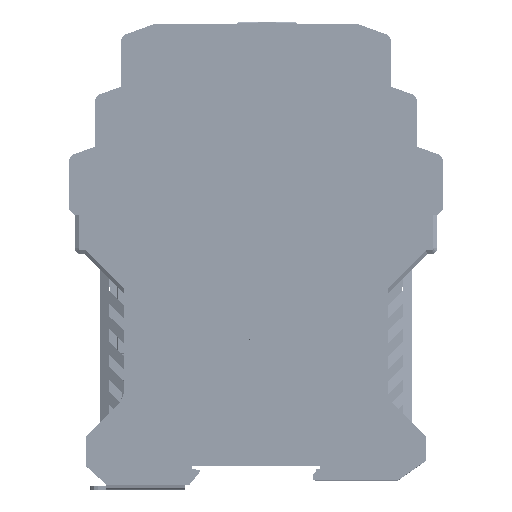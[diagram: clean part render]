
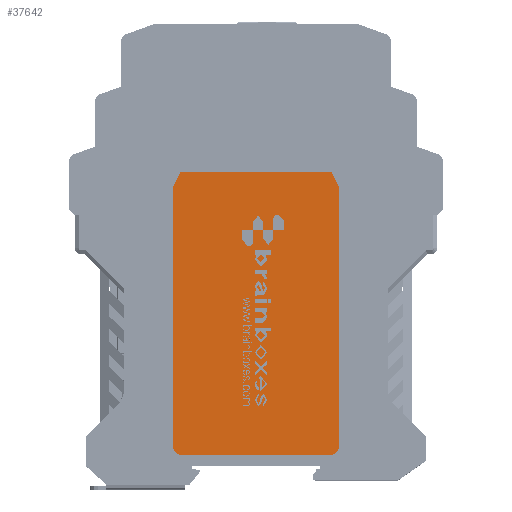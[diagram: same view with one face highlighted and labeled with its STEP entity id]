
A CAD part, top view. The second image highlights one B-rep face of the part: STEP entity #37642.
In plain terms, the highlighted planar face has unit normal (0, 0, 1).
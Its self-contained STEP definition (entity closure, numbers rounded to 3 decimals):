
#37642=ADVANCED_FACE('',(#75879),#75880,.T.);
#75879=FACE_OUTER_BOUND('',#120916,.T.);
#75880=PLANE('',#120917);
#120916=EDGE_LOOP('',(#231237,#231238,#231239,#231240,#231241,#231242,#231243,#231244));
#120917=AXIS2_PLACEMENT_3D('',#231245,#231246,#231247);
#231237=ORIENTED_EDGE('',*,*,#282296,.T.);
#231238=ORIENTED_EDGE('',*,*,#282298,.T.);
#231239=ORIENTED_EDGE('',*,*,#282299,.T.);
#231240=ORIENTED_EDGE('',*,*,#282289,.F.);
#231241=ORIENTED_EDGE('',*,*,#282300,.T.);
#231242=ORIENTED_EDGE('',*,*,#282285,.T.);
#231243=ORIENTED_EDGE('',*,*,#282301,.T.);
#231244=ORIENTED_EDGE('',*,*,#282293,.T.);
#231245=CARTESIAN_POINT('',(6.465,75.955,22.4));
#231246=DIRECTION('',(0.0,0.0,1.0));
#231247=DIRECTION('',(1.0,-0.0,0.0));
#282285=EDGE_CURVE('',#348510,#348512,#348514,.T.);
#282289=EDGE_CURVE('',#348518,#348516,#348520,.T.);
#282293=EDGE_CURVE('',#348522,#348524,#348526,.T.);
#282296=EDGE_CURVE('',#348524,#348528,#348530,.T.);
#282298=EDGE_CURVE('',#348528,#348532,#348533,.T.);
#282299=EDGE_CURVE('',#348532,#348516,#348534,.T.);
#282300=EDGE_CURVE('',#348518,#348510,#348535,.T.);
#282301=EDGE_CURVE('',#348512,#348522,#348536,.T.);
#348510=VERTEX_POINT('',#451042);
#348512=VERTEX_POINT('',#451045);
#348514=LINE('',#451048,#451049);
#348516=VERTEX_POINT('',#451051);
#348518=VERTEX_POINT('',#451054);
#348520=LINE('',#451057,#451058);
#348522=VERTEX_POINT('',#451060);
#348524=VERTEX_POINT('',#451063);
#348526=LINE('',#451066,#451067);
#348528=VERTEX_POINT('',#451069);
#348530=LINE('',#451072,#451073);
#348532=VERTEX_POINT('',#451075);
#348533=LINE('',#451076,#451077);
#348534=CIRCLE('',#451078,2.0);
#348535=CIRCLE('',#451079,2.0);
#348536=LINE('',#451080,#451081);
#451042=CARTESIAN_POINT('',(22.65,5.,22.4));
#451045=CARTESIAN_POINT('',(22.65,76.3,22.4));
#451048=CARTESIAN_POINT('',(22.65,-8.,22.4));
#451049=VECTOR('',#499731,1.0);
#451051=CARTESIAN_POINT('',(-20.65,3.,22.4));
#451054=CARTESIAN_POINT('',(20.65,3.,22.4));
#451057=CARTESIAN_POINT('',(0.,3.,22.4));
#451058=VECTOR('',#499734,1.0);
#451060=CARTESIAN_POINT('',(20.65,80.3,22.4));
#451063=CARTESIAN_POINT('',(-20.65,80.3,22.4));
#451066=CARTESIAN_POINT('',(0.,80.3,22.4));
#451067=VECTOR('',#499737,1.0);
#451069=CARTESIAN_POINT('',(-22.65,76.3,22.4));
#451072=CARTESIAN_POINT('',(-51.84,17.92,22.4));
#451073=VECTOR('',#499739,1.0);
#451075=CARTESIAN_POINT('',(-22.65,5.,22.4));
#451076=CARTESIAN_POINT('',(-22.65,-8.,22.4));
#451077=VECTOR('',#499740,1.0);
#451078=AXIS2_PLACEMENT_3D('',#499741,#499742,#499743);
#451079=AXIS2_PLACEMENT_3D('',#499744,#499745,#499746);
#451080=CARTESIAN_POINT('',(51.84,17.92,22.4));
#451081=VECTOR('',#499747,1.0);
#499731=DIRECTION('',(0.,1.0,0.0));
#499734=DIRECTION('',(-1.0,0.,0.0));
#499737=DIRECTION('',(-1.0,0.0,0.0));
#499739=DIRECTION('',(-0.447,-0.894,0.0));
#499740=DIRECTION('',(0.,-1.0,0.0));
#499741=CARTESIAN_POINT('',(-20.65,5.,22.4));
#499742=DIRECTION('',(0.0,0.0,1.0));
#499743=DIRECTION('',(1.0,0.0,0.0));
#499744=CARTESIAN_POINT('',(20.65,5.,22.4));
#499745=DIRECTION('',(0.0,0.0,1.0));
#499746=DIRECTION('',(1.0,0.0,0.0));
#499747=DIRECTION('',(-0.447,0.894,0.0));
